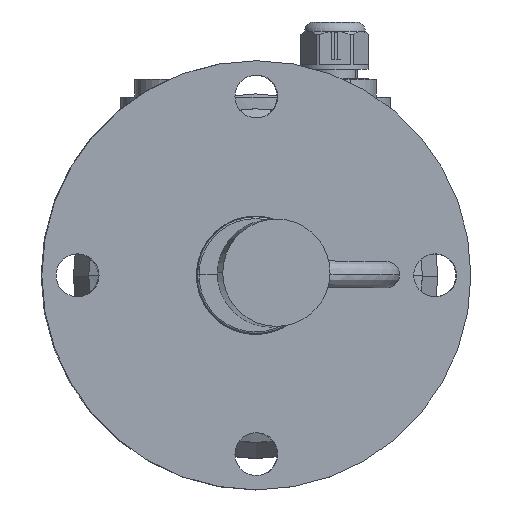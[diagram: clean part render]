
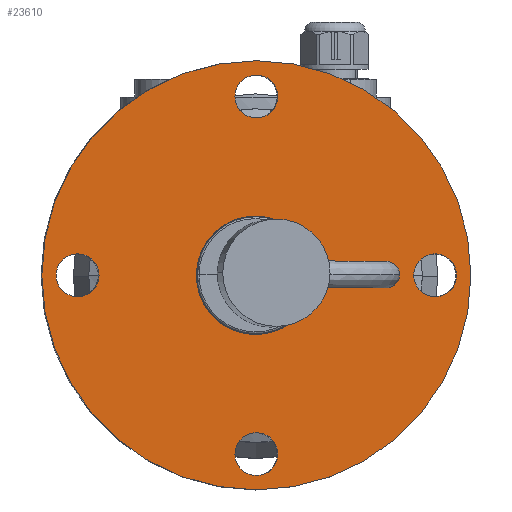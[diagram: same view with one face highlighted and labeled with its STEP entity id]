
A CAD part, top view. The second image highlights one B-rep face of the part: STEP entity #23610.
In plain terms, the highlighted planar face has unit normal (0.013, 0, 1) as drawn and (0, 0, 1) by its records, which use the part's own axes.
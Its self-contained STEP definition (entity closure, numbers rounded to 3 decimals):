
#23391=CARTESIAN_POINT('',(0.,0.,16.));
#23392=DIRECTION('',(0.,0.,1.));
#23393=DIRECTION('',(1.,0.,0.));
#23394=AXIS2_PLACEMENT_3D('',#23391,#23392,#23393);
#23396=CARTESIAN_POINT('',(0.,0.,16.));
#23397=DIRECTION('',(0.,0.,1.));
#23398=DIRECTION('',(-1.,0.,0.));
#23399=AXIS2_PLACEMENT_3D('',#23396,#23397,#23398);
#23401=CARTESIAN_POINT('',(0.,50.,16.));
#23402=DIRECTION('',(0.,0.,1.));
#23403=DIRECTION('',(1.,0.,0.));
#23404=AXIS2_PLACEMENT_3D('',#23401,#23402,#23403);
#23406=CARTESIAN_POINT('',(0.,50.,16.));
#23407=DIRECTION('',(0.,0.,1.));
#23408=DIRECTION('',(-1.,0.,0.));
#23409=AXIS2_PLACEMENT_3D('',#23406,#23407,#23408);
#23411=CARTESIAN_POINT('',(-50.,0.,16.));
#23412=DIRECTION('',(0.,0.,1.));
#23413=DIRECTION('',(0.,1.,0.));
#23414=AXIS2_PLACEMENT_3D('',#23411,#23412,#23413);
#23416=CARTESIAN_POINT('',(-50.,0.,16.));
#23417=DIRECTION('',(0.,0.,1.));
#23418=DIRECTION('',(0.,-1.,0.));
#23419=AXIS2_PLACEMENT_3D('',#23416,#23417,#23418);
#23421=CARTESIAN_POINT('',(0.,-50.,16.));
#23422=DIRECTION('',(0.,0.,1.));
#23423=DIRECTION('',(-1.,0.,0.));
#23424=AXIS2_PLACEMENT_3D('',#23421,#23422,#23423);
#23426=CARTESIAN_POINT('',(0.,-50.,16.));
#23427=DIRECTION('',(0.,0.,1.));
#23428=DIRECTION('',(1.,0.,0.));
#23429=AXIS2_PLACEMENT_3D('',#23426,#23427,#23428);
#23431=CARTESIAN_POINT('',(50.,0.,16.));
#23432=DIRECTION('',(0.,0.,1.));
#23433=DIRECTION('',(0.,-1.,0.));
#23434=AXIS2_PLACEMENT_3D('',#23431,#23432,#23433);
#23436=CARTESIAN_POINT('',(50.,0.,16.));
#23437=DIRECTION('',(0.,0.,1.));
#23438=DIRECTION('',(0.,1.,0.));
#23439=AXIS2_PLACEMENT_3D('',#23436,#23437,#23438);
#23477=CARTESIAN_POINT('',(60.,0.,16.));
#23478=CARTESIAN_POINT('',(-60.,0.,16.));
#23479=VERTEX_POINT('',#23477);
#23480=VERTEX_POINT('',#23478);
#23485=CARTESIAN_POINT('',(6.,50.,16.));
#23486=CARTESIAN_POINT('',(-6.,50.,16.));
#23487=VERTEX_POINT('',#23485);
#23488=VERTEX_POINT('',#23486);
#23493=CARTESIAN_POINT('',(-50.,6.,16.));
#23494=CARTESIAN_POINT('',(-50.,-6.,16.));
#23495=VERTEX_POINT('',#23493);
#23496=VERTEX_POINT('',#23494);
#23501=CARTESIAN_POINT('',(-6.,-50.,16.));
#23502=CARTESIAN_POINT('',(6.,-50.,16.));
#23503=VERTEX_POINT('',#23501);
#23504=VERTEX_POINT('',#23502);
#23509=CARTESIAN_POINT('',(50.,-6.,16.));
#23510=CARTESIAN_POINT('',(50.,6.,16.));
#23511=VERTEX_POINT('',#23509);
#23512=VERTEX_POINT('',#23510);
#23577=CARTESIAN_POINT('',(0.,0.,16.));
#23578=DIRECTION('',(0.,0.,1.));
#23579=DIRECTION('',(1.,0.,0.));
#23580=AXIS2_PLACEMENT_3D('',#23577,#23578,#23579);
#23581=PLANE('',#23580);
#23582=ORIENTED_EDGE('',*,*,#23557,.F.);
#23583=ORIENTED_EDGE('',*,*,#23571,.F.);
#23584=EDGE_LOOP('',(#23582,#23583));
#23585=FACE_OUTER_BOUND('',#23584,.F.);
#23587=ORIENTED_EDGE('',*,*,#23586,.T.);
#23589=ORIENTED_EDGE('',*,*,#23588,.T.);
#23590=EDGE_LOOP('',(#23587,#23589));
#23591=FACE_BOUND('',#23590,.F.);
#23593=ORIENTED_EDGE('',*,*,#23592,.T.);
#23595=ORIENTED_EDGE('',*,*,#23594,.T.);
#23596=EDGE_LOOP('',(#23593,#23595));
#23597=FACE_BOUND('',#23596,.F.);
#23599=ORIENTED_EDGE('',*,*,#23598,.T.);
#23601=ORIENTED_EDGE('',*,*,#23600,.T.);
#23602=EDGE_LOOP('',(#23599,#23601));
#23603=FACE_BOUND('',#23602,.F.);
#23605=ORIENTED_EDGE('',*,*,#23604,.T.);
#23607=ORIENTED_EDGE('',*,*,#23606,.T.);
#23608=EDGE_LOOP('',(#23605,#23607));
#23609=FACE_BOUND('',#23608,.F.);
#23610=ADVANCED_FACE('',(#23585,#23591,#23597,#23603,#23609),#23581,.T.);
#23395=CIRCLE('',#23394,60.);
#23400=CIRCLE('',#23399,60.);
#23405=CIRCLE('',#23404,6.);
#23410=CIRCLE('',#23409,6.);
#23415=CIRCLE('',#23414,6.);
#23420=CIRCLE('',#23419,6.);
#23425=CIRCLE('',#23424,6.);
#23430=CIRCLE('',#23429,6.);
#23435=CIRCLE('',#23434,6.);
#23440=CIRCLE('',#23439,6.);
#23557=EDGE_CURVE('',#23479,#23480,#23395,.T.);
#23571=EDGE_CURVE('',#23480,#23479,#23400,.T.);
#23586=EDGE_CURVE('',#23487,#23488,#23405,.T.);
#23588=EDGE_CURVE('',#23488,#23487,#23410,.T.);
#23592=EDGE_CURVE('',#23495,#23496,#23415,.T.);
#23594=EDGE_CURVE('',#23496,#23495,#23420,.T.);
#23598=EDGE_CURVE('',#23503,#23504,#23425,.T.);
#23600=EDGE_CURVE('',#23504,#23503,#23430,.T.);
#23604=EDGE_CURVE('',#23511,#23512,#23435,.T.);
#23606=EDGE_CURVE('',#23512,#23511,#23440,.T.);
